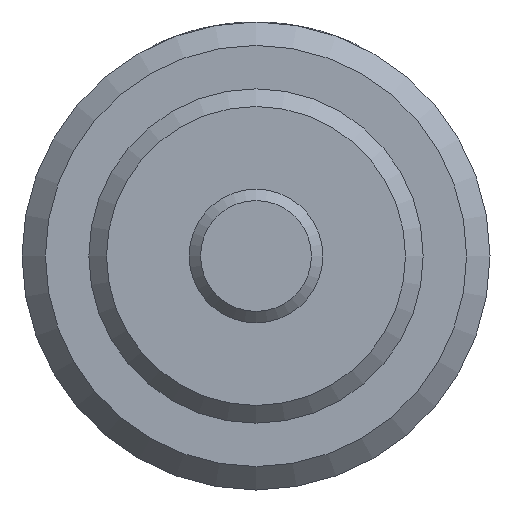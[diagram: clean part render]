
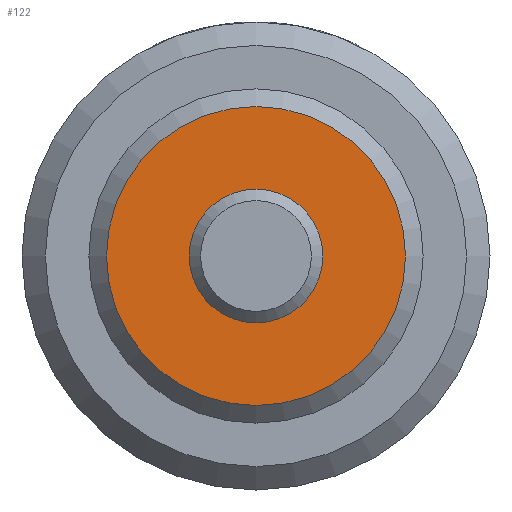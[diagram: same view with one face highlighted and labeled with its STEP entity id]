
A CAD part, left-side view. The second image highlights one B-rep face of the part: STEP entity #122.
In plain terms, the highlighted planar face has unit normal (-1, 0, 0).
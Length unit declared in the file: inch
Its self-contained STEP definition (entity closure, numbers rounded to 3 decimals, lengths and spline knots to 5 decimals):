
#122 = ADVANCED_FACE( '', ( #258, #259 ), #260, .F. );
#258 = FACE_OUTER_BOUND( '', #438, .T. );
#259 = FACE_BOUND( '', #439, .T. );
#260 = PLANE( '', #440 );
#438 = EDGE_LOOP( '', ( #621 ) );
#439 = EDGE_LOOP( '', ( #622 ) );
#440 = AXIS2_PLACEMENT_3D( '', #623, #624, #625 );
#621 = ORIENTED_EDGE( '', *, *, #901, .F. );
#622 = ORIENTED_EDGE( '', *, *, #902, .T. );
#623 = CARTESIAN_POINT( '', ( 0., 0., 0. ) );
#624 = DIRECTION( '', ( 1., 0., 0. ) );
#625 = DIRECTION( '', ( 0., 0., -1. ) );
#901 = EDGE_CURVE( '', #1020, #1020, #1021, .T. );
#902 = EDGE_CURVE( '', #1022, #1022, #1023, .T. );
#1020 = VERTEX_POINT( '', #1178 );
#1021 = CIRCLE( '', #1179, 0.27945 );
#1022 = VERTEX_POINT( '', #1180 );
#1023 = CIRCLE( '', #1181, 0.125 );
#1178 = CARTESIAN_POINT( '', ( 0., 0., -0.27945 ) );
#1179 = AXIS2_PLACEMENT_3D( '', #1503, #1504, #1505 );
#1180 = CARTESIAN_POINT( '', ( 0., 0., -0.125 ) );
#1181 = AXIS2_PLACEMENT_3D( '', #1506, #1507, #1508 );
#1503 = CARTESIAN_POINT( '', ( 0., 0., 0. ) );
#1504 = DIRECTION( '', ( 1., 0., 0. ) );
#1505 = DIRECTION( '', ( 0., 0., -1. ) );
#1506 = CARTESIAN_POINT( '', ( 0., 0., 0. ) );
#1507 = DIRECTION( '', ( 1., 0., 0. ) );
#1508 = DIRECTION( '', ( 0., 0., -1. ) );
